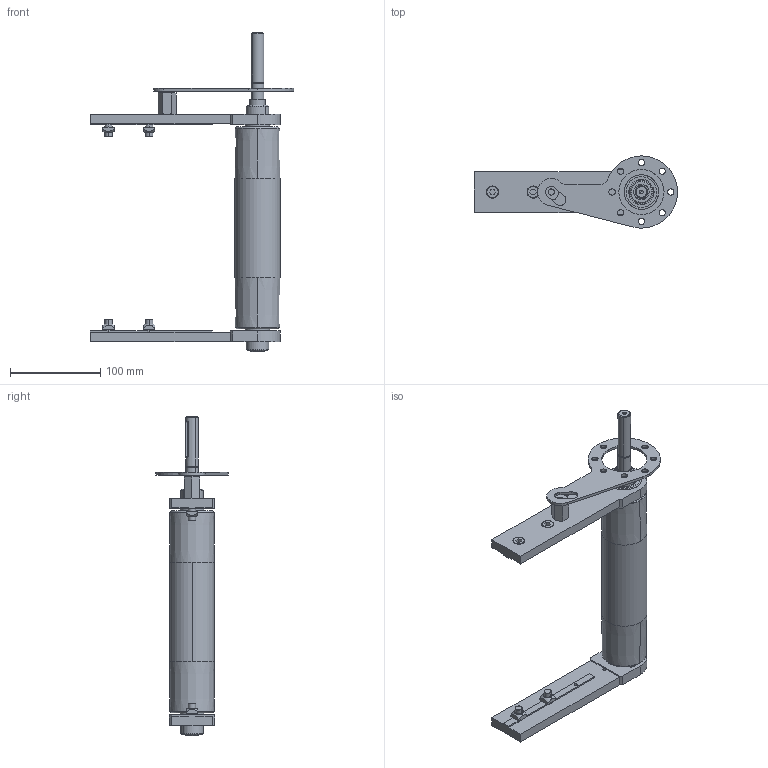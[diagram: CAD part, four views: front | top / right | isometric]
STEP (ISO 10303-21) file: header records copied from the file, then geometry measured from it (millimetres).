
FILE_DESCRIPTION (( 'STEP AP203' ), '1' );
FILE_NAME ('084.050.KD.30.200.step', '2014-02-18T11:35:25', ( '' ), ( '' ), 'SwSTEP 2.0', 'SolidWorks 2012', '' );
FILE_SCHEMA (( 'CONFIG_CONTROL_DESIGN' ));
Length unit declared in the file: millimetre
Products named in the file (12): 084.050.KD.30.200; 084.807.005; 084.802.027; 084.811.001; 084.302.000 DADI ALUSIC 13x13_084.302.004; 084.301.000 VITI ALUSIC_084.301.003; 084.810.001; 084.815.103_Default<A macchina>; 084.811.004; 084.802.017_084.802.017; 084.807.003_084.807.003; 084.807.002_084.807.002
Assembly tree (19 placements, depth 2):
  084.050.KD.30.200
    084.807.002_084.807.002
    084.807.003_084.807.003
    084.802.017_084.802.017  x2
    084.811.004
    084.815.103_Default<A macchina>
    084.810.001  x2
    084.301.000 VITI ALUSIC_084.301.003  x4
    084.302.000 DADI ALUSIC 13x13_084.302.004  x4
    084.811.001
    084.802.027
    084.807.005
Bounding box: 225 x 80 x 353.5 mm (x, y, z)
Volume: 430722.2 mm3; surface area: 223868.7 mm2
Topology: 21 solids, 23 shells, 594 faces, 1477 edges, 957 vertices
Faces by surface type: plane 242, cylinder 225, torus 68, cone 51, sphere 8
Entity records: 14617 total; most frequent: CARTESIAN_POINT 2613, DIRECTION 2381, ORIENTED_EDGE 2094, EDGE_CURVE 1047, AXIS2_PLACEMENT_3D 947, VERTEX_POINT 683, CIRCLE 513, EDGE_LOOP 494
